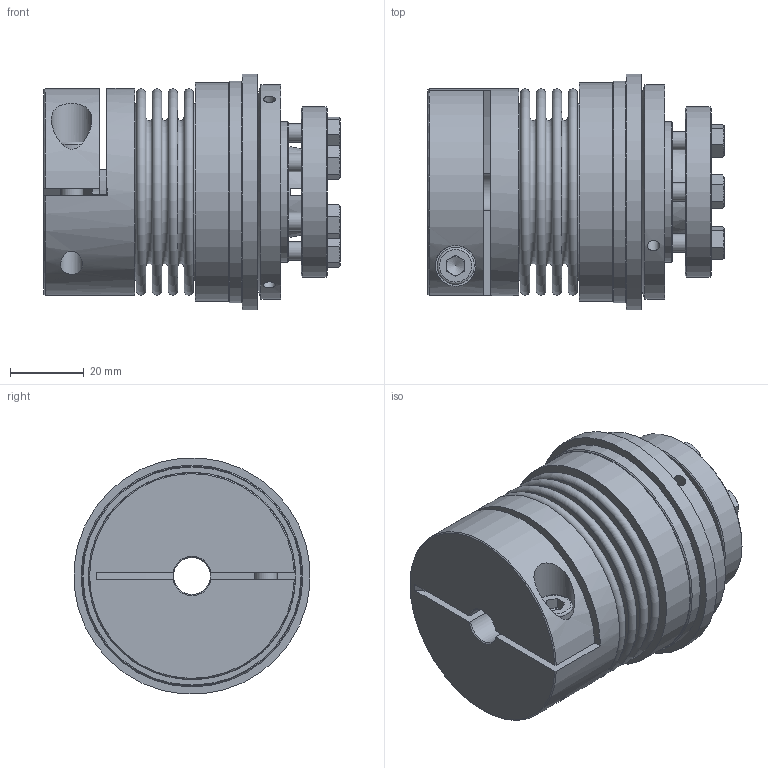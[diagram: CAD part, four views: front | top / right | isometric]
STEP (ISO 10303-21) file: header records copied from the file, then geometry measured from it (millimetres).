
FILE_DESCRIPTION( ( 'Unknown' ), '1' );
FILE_NAME( 'C:/Users/skarpstein/Desktop/Korrigierte 3D Modelle/KBK-B-KA/KBK-BKA-30-77-5.stp', 'Unknown', ( 'Unknown' ), ( 'Unknown' ), 'PSStep 16.0.42', 'Unknown', ' ' );
FILE_SCHEMA( ( 'AUTOMOTIVE_DESIGN { 1 0 10303 214 1 1 1 1 }' ) );
Length unit declared in the file: millimetre
Products named in the file (10): Assem1; Stellring 30_0; Druckring 30_0; Flansch BK30; KN30_Standard_2; Socket Head Cap Screw_DIN_DIN 912 M6 x 20 --- 20N_3; BK30_Standard_1; L-A-30 Grundkörper; Druckring L-A-30; din_en_24017_m5x16
Assembly tree (14 placements, depth 2):
  Assem1
    Stellring 30_0
    Druckring 30_0
    Flansch BK30
    KN30_Standard_2
    Socket Head Cap Screw_DIN_DIN 912 M6 x 20 --- 20N_3
    BK30_Standard_1
    L-A-30 Grundkörper
    Druckring L-A-30
    din_en_24017_m5x16  x6
Bounding box: 80.1 x 63.81 x 63.81 mm (x, y, z)
Volume: 133021.3 mm3; surface area: 74664.2 mm2
Topology: 14 solids, 14 shells, 299 faces, 631 edges, 404 vertices
Faces by surface type: plane 147, cone 68, cylinder 58, torus 26
Full cylindrical faces by diameter (mm): 3.242 x3, 4.134 x6, 5 x6, 5.5 x6, 6 x2, 6.4 x1, 6.88 x6, 10 x2, 11 x1, 12 x1, 23.9 x1, 24.7 x1, 25 x2, 34 x1, 37 x1, 38 x2, 40 x1, 46 x1, 46.5 x2, 47.3 x2, 52 x1, 56 x1, 58 x1, 59 x1, 60 x1, 64 x1
Entity records: 6757 total; most frequent: CARTESIAN_POINT 1250, DIRECTION 863, ORIENTED_EDGE 592, AXIS2_PLACEMENT_3D 392, EDGE_LOOP 334, EDGE_CURVE 296, FACE_OUTER_BOUND 252, VERTEX_POINT 247
